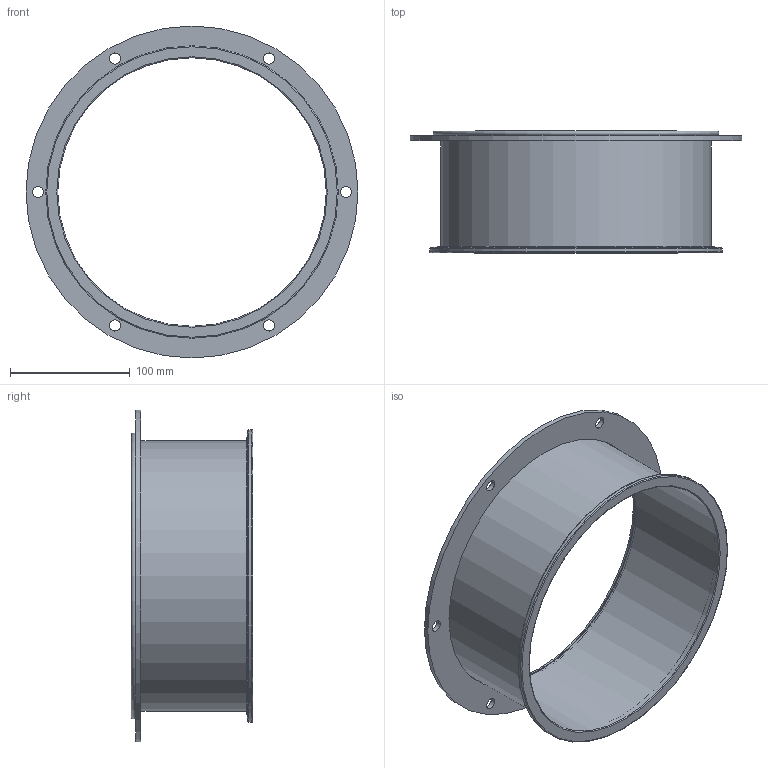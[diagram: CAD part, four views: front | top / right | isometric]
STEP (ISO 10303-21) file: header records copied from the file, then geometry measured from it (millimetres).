
FILE_DESCRIPTION(/* description */ (''),/* implementation_level */ '2;1');
FILE_NAME(/* name */ 'METU_EA102-41B_224_L100.stp',/* time_stamp */ '2018-10-10T13:15:43+02:00',/* author */ (''),/* organization */ (''),/* preprocessor_version */ 'ST-DEVELOPER v11',/* originating_system */ 'SIEMENS UGS NX 6.0',/* authorisation */ '');
FILE_SCHEMA (('CONFIG_CONTROL_DESIGN'));
Length unit declared in the file: millimetre
Products named in the file (1): garsCF17de6m
Bounding box: 277 x 101.5 x 277 mm (x, y, z)
Volume: 182440.5 mm3; surface area: 229689.5 mm2
Topology: 3 solids, 3 shells, 30 faces, 68 edges, 47 vertices
Faces by surface type: cylinder 15, plane 9, torus 5, cone 1
Full cylindrical faces by diameter (mm): 9.5 x6, 224 x2, 225.6 x2, 227 x1, 235.6 x2, 244 x1, 277 x1
Entity records: 782 total; most frequent: DIRECTION 134, CARTESIAN_POINT 103, FACE_BOUND 72, EDGE_LOOP 72, ORIENTED_EDGE 72, AXIS2_PLACEMENT_3D 67, VERTEX_POINT 36, EDGE_CURVE 36
